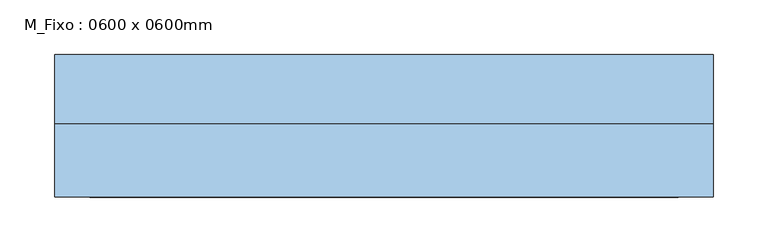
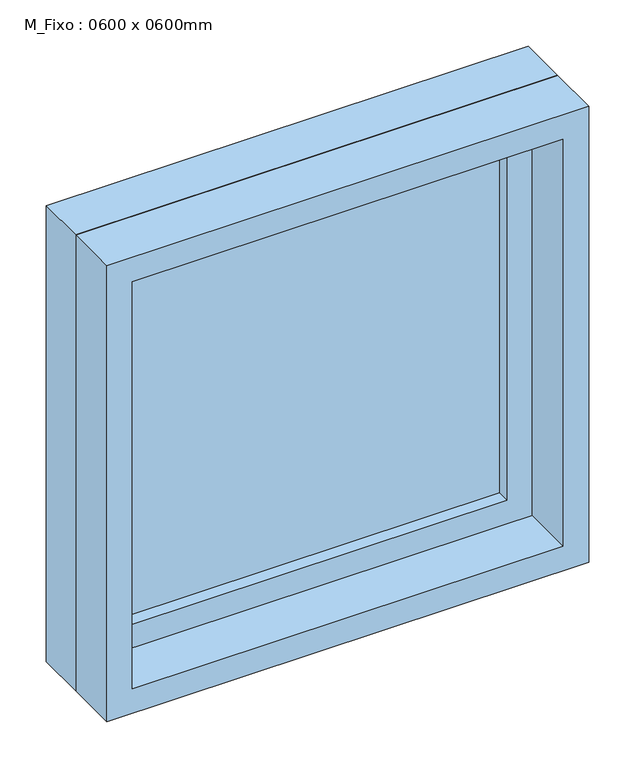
"""IFC4 building model written with IfcOpenShell, lengths in millimetres: window geometry, M_Fixo : 0600 x 0600mm."""

from ifc_helpers import new_model, si_unit, frame, origin, place, context, project, spatial, polyline, outline, extrude, source, transform, mapped, element, save


def m_fixo_0600_x_0600mm_04081112(model_context):
    return source(origin(), model_context, "Body", "SweptSolid", [
        extrude(outline(polyline([(-237.0, 43.0), (237.0, 43.0), (237.0, 31.0), (-237.0, 31.0), (-237.0, 43.0)])), frame((0.0, 0.0, 978.0), z_axis=(0.0, 0.0, 1.0), x_axis=(1.0, 0.0, 0.0)), (0.0, 0.0, 1.0), 474.0),
        extrude(outline(polyline([(1496.0, -281.0), (934.0, -281.0), (934.0, 281.0), (1496.0, 281.0), (1496.0, -281.0)]), holes=[polyline([(1452.0, -237.0), (1452.0, 237.0), (978.0, 237.0), (978.0, -237.0), (1452.0, -237.0)])]), frame((0.0, 15.0, 0.0), z_axis=(0.0, 1.0, 0.0), x_axis=(0.0, 0.0, 1.0)), (0.0, 0.0, 1.0), 44.0),
        extrude(outline(polyline([(1515.0, -300.0), (915.0, -300.0), (915.0, 300.0), (1515.0, 300.0), (1515.0, -300.0)]), holes=[polyline([(1496.0, -281.0), (1496.0, 281.0), (934.0, 281.0), (934.0, -281.0), (1496.0, -281.0)])]), frame((0.0, 15.0, 0.0), z_axis=(0.0, 1.0, 0.0), x_axis=(0.0, 0.0, 1.0)), (0.0, 0.0, 1.0), 63.0),
        extrude(outline(polyline([(1515.0, -300.0), (915.0, -300.0), (915.0, 300.0), (1515.0, 300.0), (1515.0, -300.0)]), holes=[polyline([(1483.0, -268.0), (1483.0, 268.0), (947.0, 268.0), (947.0, -268.0), (1483.0, -268.0)])]), frame((0.0, -52.0, 0.0), z_axis=(0.0, 1.0, 0.0), x_axis=(0.0, 0.0, 1.0)), (0.0, 0.0, 1.0), 67.0),
    ])


if __name__ == "__main__":
    model = new_model("IFC4")
    model_context = context("Model", 3, world=origin())
    ifc_project = project(units=[si_unit("LENGTHUNIT", "METRE", prefix="MILLI")], contexts=[model_context])
    site = spatial("IfcSite", under=ifc_project)
    building = spatial("IfcBuilding", under=site)
    placement = place(None, origin())
    m_fixo_0600_x_0600mm_shape = m_fixo_0600_x_0600mm_04081112(model_context)
    element("IfcWindow", 1, ObjectType="M_Fixo : 0600 x 0600mm", at=placement, inside=building, context=model_context, shape_type="MappedRepresentation", body=[
        mapped(m_fixo_0600_x_0600mm_shape, transform((0.0, 0.0, 0.0), x_axis=(1.0, 0.0, 0.0), y_axis=(0.0, 1.0, 0.0), z_axis=(0.0, 0.0, 1.0))),
    ])
    save(model, "model.ifc")
